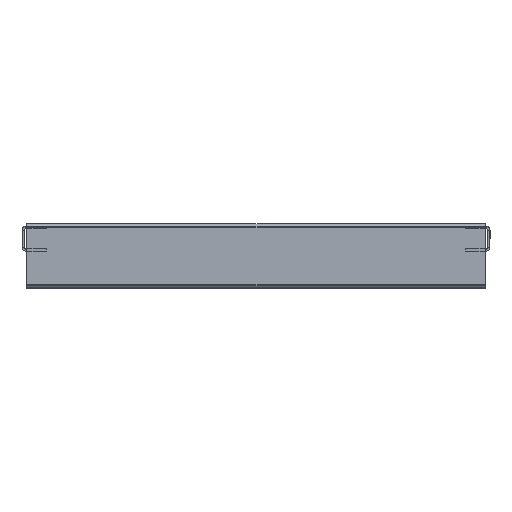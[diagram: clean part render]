
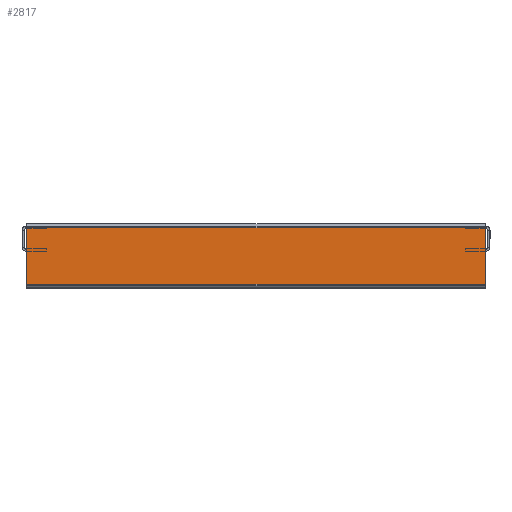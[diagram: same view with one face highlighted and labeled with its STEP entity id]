
A CAD part, left-side view. The second image highlights one B-rep face of the part: STEP entity #2817.
In plain terms, the highlighted planar face has unit normal (-1, 0, 0).
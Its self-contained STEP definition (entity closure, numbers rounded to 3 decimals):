
#11 = LINE ( 'NONE', #1352, #2302 ) ;
#205 = ORIENTED_EDGE ( 'NONE', *, *, #2863, .T. ) ;
#243 = DIRECTION ( 'NONE',  ( 1., 0., 0. ) ) ;
#266 = VERTEX_POINT ( 'NONE', #1633 ) ;
#428 = CARTESIAN_POINT ( 'NONE',  ( -395., -186., -28. ) ) ;
#448 = CARTESIAN_POINT ( 'NONE',  ( -395., -186., 19. ) ) ;
#537 = VERTEX_POINT ( 'NONE', #558 ) ;
#558 = CARTESIAN_POINT ( 'NONE',  ( -395., 186., 19. ) ) ;
#653 = PLANE ( 'NONE',  #736 ) ;
#736 = AXIS2_PLACEMENT_3D ( 'NONE', #2509, #243, #2494 ) ;
#743 = CARTESIAN_POINT ( 'NONE',  ( -395., 186., -28. ) ) ;
#851 = LINE ( 'NONE', #1536, #2351 ) ;
#1051 = VECTOR ( 'NONE', #2850, 1000. ) ;
#1171 = EDGE_CURVE ( 'NONE', #266, #537, #1888, .T. ) ;
#1207 = EDGE_LOOP ( 'NONE', ( #205, #1326, #2419, #1684 ) ) ;
#1326 = ORIENTED_EDGE ( 'NONE', *, *, #1171, .F. ) ;
#1332 = VERTEX_POINT ( 'NONE', #448 ) ;
#1352 = CARTESIAN_POINT ( 'NONE',  ( -395., 186., -27. ) ) ;
#1375 = EDGE_CURVE ( 'NONE', #266, #1386, #11, .T. ) ;
#1386 = VERTEX_POINT ( 'NONE', #2524 ) ;
#1536 = CARTESIAN_POINT ( 'NONE',  ( -395., -186., 19. ) ) ;
#1556 = VECTOR ( 'NONE', #2226, 1000. ) ;
#1602 = DIRECTION ( 'NONE',  ( 0., -1., 0. ) ) ;
#1633 = CARTESIAN_POINT ( 'NONE',  ( -395., 186., -27. ) ) ;
#1684 = ORIENTED_EDGE ( 'NONE', *, *, #1700, .T. ) ;
#1700 = EDGE_CURVE ( 'NONE', #1386, #1332, #2170, .T. ) ;
#1888 = LINE ( 'NONE', #743, #1051 ) ;
#2170 = LINE ( 'NONE', #428, #1556 ) ;
#2226 = DIRECTION ( 'NONE',  ( 0., 0., 1. ) ) ;
#2261 = FACE_OUTER_BOUND ( 'NONE', #1207, .T. ) ;
#2302 = VECTOR ( 'NONE', #1602, 1000. ) ;
#2342 = DIRECTION ( 'NONE',  ( 0., 1., 0. ) ) ;
#2351 = VECTOR ( 'NONE', #2342, 1000. ) ;
#2419 = ORIENTED_EDGE ( 'NONE', *, *, #1375, .T. ) ;
#2494 = DIRECTION ( 'NONE',  ( 0., 0., -1. ) ) ;
#2509 = CARTESIAN_POINT ( 'NONE',  ( -395., 186., -28. ) ) ;
#2524 = CARTESIAN_POINT ( 'NONE',  ( -395., -186., -27. ) ) ;
#2817 = ADVANCED_FACE ( 'NONE', ( #2261 ), #653, .F. ) ;
#2850 = DIRECTION ( 'NONE',  ( 0., 0., 1. ) ) ;
#2863 = EDGE_CURVE ( 'NONE', #1332, #537, #851, .T. ) ;
